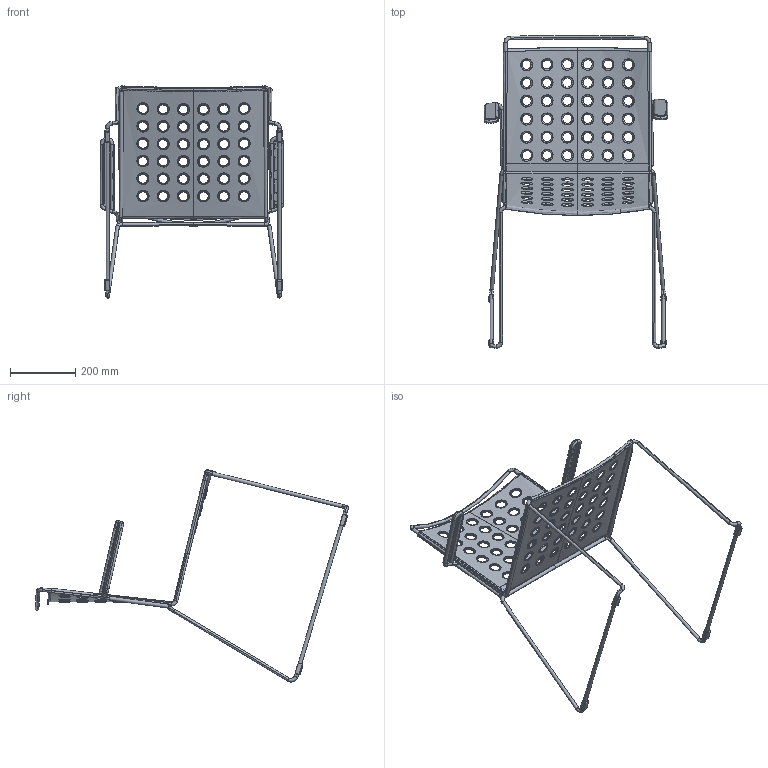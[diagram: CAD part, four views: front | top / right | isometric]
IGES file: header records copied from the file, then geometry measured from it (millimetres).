
Start section: 3D InterOp IGES (v. 2017 1.0.2), Spatial Corp. Copyright (c) 1999-2016.
Global section: file name: Sedia con braccioli Busy.igs; native system: Spatial Corp.; preprocessor: 3D InterOp GENERIC/IGES 3.0; author: Noname; organization: Noname; date: 20180713.091333; units: millimetre
Bounding box: 564.59 x 961.08 x 651.28 mm (x, y, z)
Surface area: 1019399.4 mm2 (no closed solid volume)
Topology: 0 solids, 0 shells, 2746 faces, 14313 edges, 14181 vertices
Faces by surface type: revolution 1436, extrusion 654, bspline 654, offset 2
